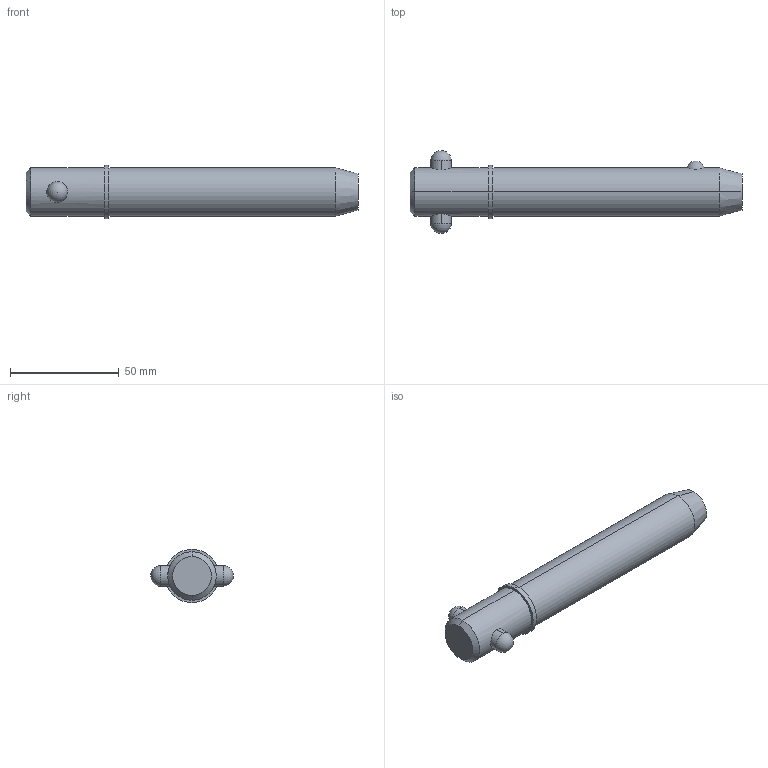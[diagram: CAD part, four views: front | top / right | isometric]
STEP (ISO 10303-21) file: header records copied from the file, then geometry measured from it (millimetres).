
FILE_DESCRIPTION (( 'STEP AP203' ), '1' );
FILE_NAME ('33018.W8835.step', '2024-11-19T17:22:26', ( '' ), ( '' ), 'SwSTEP 2.0', 'SolidWorks 2019', '' );
FILE_SCHEMA (( 'CONFIG_CONTROL_DESIGN' ));
Length unit declared in the file: millimetre
Products named in the file (3): Part2_33018.W8835; Part1_33018.W8835; 33018.W8835
Assembly tree (2 placements, depth 2):
  33018.W8835
    Part1_33018.W8835
    Part2_33018.W8835
Bounding box: 152.4 x 38.1 x 24.45 mm (x, y, z)
Volume: 59292.2 mm3; surface area: 12926.6 mm2
Topology: 2 solids, 2 shells, 22 faces, 47 edges, 30 vertices
Faces by surface type: cylinder 10, sphere 4, cone 4, plane 4
Entity records: 1057 total; most frequent: CARTESIAN_POINT 300, DIRECTION 110, ORIENTED_EDGE 82, AXIS2_PLACEMENT_3D 48, EDGE_CURVE 41, EDGE_LOOP 27, PERSON_AND_ORGANIZATION 26, VERTEX_POINT 26
